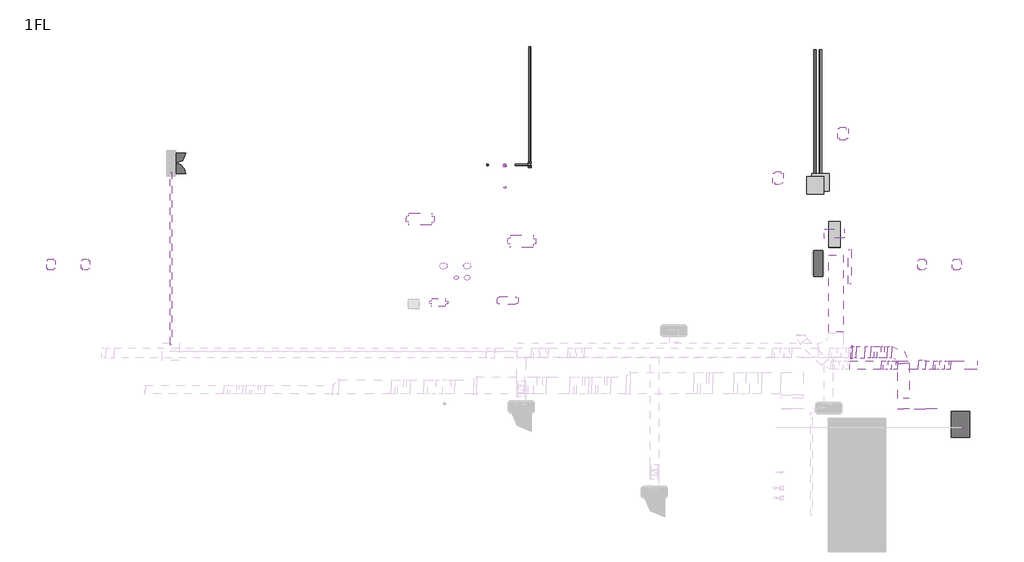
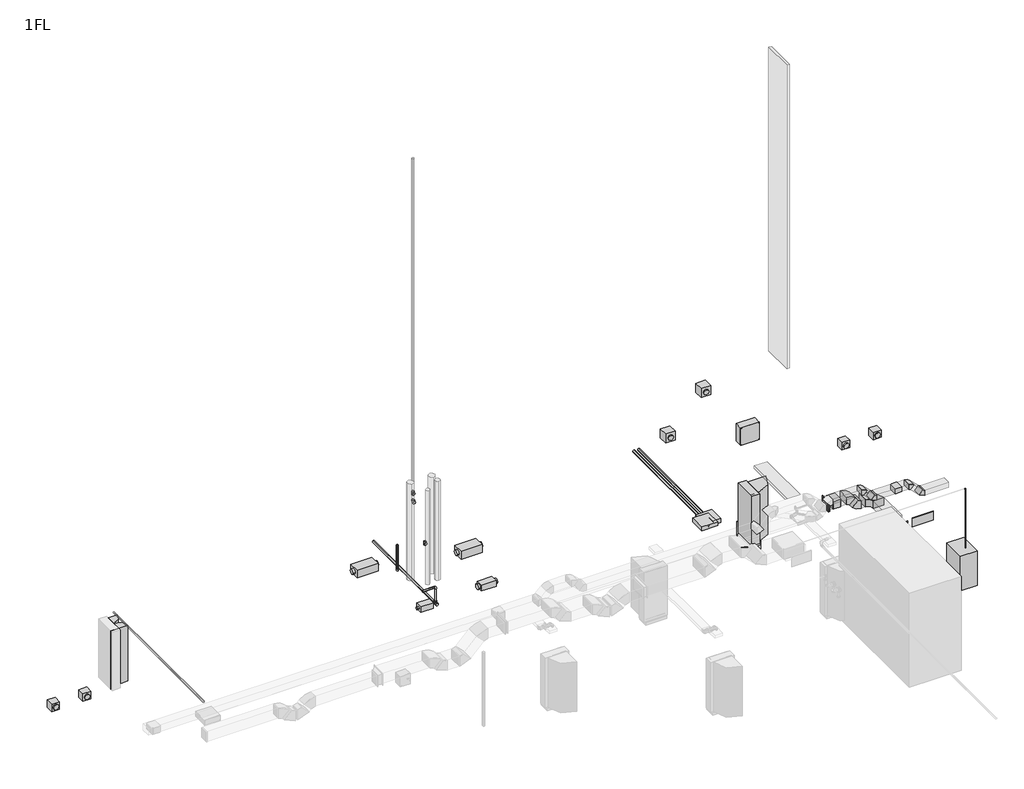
# One storey, part 3 of 3: 15 duct segments, 12 duct fittings, 10 unitary equipment elements, 8 pipe fittings, 7 pipe segments, 5 cable carrier segments, 3 electric distribution boards, 2 cable carrier fittings, 2 proxies.
"""IFC4 building model written with IfcOpenShell, lengths in millimetres."""

from ifc_helpers import new_model, si_unit, point, frame, frame_2d, origin, origin_with_axes, place, context, project, spatial, polyline, circle_curve, trimmed, segment, composite_curve, outline, extrude, transform, mapped, element, save
from components import electrical_fixtures_9befc5e6, electrical_fixtures_c73e226d, cable_carrier_fitting_1a5c53af, common_c334632e, common_e3022bb7, common_0bd60039, common_c3ac9124, common_1_0_w_3d36b4d6, common_1_0_w_5a3e512d, common_1_0_w_81b0d351, common_45_deg_c842ccf0, electric_distribution_board_7f65f68d, electric_distribution_board_1ec212f5, electric_distribution_board_7d68dc5e, common_279bc6e8, common_9c93153a, common_bebf707b, common_e0ad3d5b, common_d1d28a45, common_b14b07df, common_2263acef, unitary_equipment_1_1_4_650m3_h_05f98e83, unitary_equipment_1_150m3_h_757a065e, unitary_equipment_1_300m3_h_c85a9461, unitary_equipment_2_1_2_650m3_h_d17ee650, unitary_equipment_2_300m3_h_3dfff21d

model = new_model("IFC4")

# Units and contexts
model_context = context("Model", 3, world=origin())
ifc_project = project(units=[si_unit("LENGTHUNIT", "METRE", prefix="MILLI")], contexts=[model_context])

# Site, building, storey
site = spatial("IfcSite", under=ifc_project)
building = spatial("IfcBuilding", under=site)
storey = spatial("IfcBuildingStorey", under=building, Name="1FL", Elevation=0.0)

# Proxies
placement = place(None, origin())
electrical_fixtures_shape = electrical_fixtures_9befc5e6(model_context)
element("IfcBuildingElementProxy", 1, Name="20206_プルボックス_大_強電用 : 幹線設備", ObjectType="20206_プルボックス_大_強電用 : 幹線設備", at=placement, inside=storey, context=model_context, shape_type="MappedRepresentation", body=[
    mapped(electrical_fixtures_shape, transform((27454.755715, 19270.1146486, 3230.0), x_axis=(1.0, 0.0, 0.0), y_axis=(0.0, 1.0, 0.0), z_axis=(0.0, 0.0, 1.0))),
])
electrical_fixtures_2_shape = electrical_fixtures_c73e226d(model_context)
element("IfcBuildingElementProxy", 2, Name="20206_プルボックス_大_強電用 : 幹線設備", ObjectType="20206_プルボックス_大_強電用 : 幹線設備", at=placement, inside=storey, context=model_context, shape_type="MappedRepresentation", body=[
    mapped(electrical_fixtures_2_shape, transform((27469.51143, 19230.5997435, -1139.6522749), x_axis=(1.0, 0.0, 0.0), y_axis=(0.0, 1.0, 0.0), z_axis=(0.0, 0.0, 1.0))),
])

# Cable carrier fittings
cable_carrier_fitting_shape = cable_carrier_fitting_1a5c53af(model_context)
element("IfcCableCarrierFitting", 3, ObjectType="M_電線管端子箱 - 置換 - アルミニウム : 標準", at=placement, inside=storey, context=model_context, shape_type="MappedRepresentation", body=[
    mapped(cable_carrier_fitting_shape, transform((26794.6857911, 20644.3078062, -850.0), x_axis=(0.0, 1.0, 0.0), y_axis=(-1.0, 0.0, 0.0), z_axis=(0.0, 0.0, 1.0))),
])
element("IfcCableCarrierFitting", 4, ObjectType="M_電線管端子箱 - 置換 - アルミニウム : 標準", at=placement, inside=storey, context=model_context, shape_type="MappedRepresentation", body=[
    mapped(cable_carrier_fitting_shape, transform((26974.6857911, 20752.1539031, -850.0), x_axis=(0.0, 1.0, 0.0), y_axis=(-1.0, 0.0, 0.0), z_axis=(0.0, 0.0, 1.0))),
])

# Cable carrier segments
element("IfcCableCarrierSegment", 5, ObjectType="03 強電_低圧", at=placement, inside=storey, context=model_context, shape_type="SweptSolid", body=[
    extrude(outline(polyline([(27945.0, 17511.820725), (27945.0, 18711.820725), (28045.0, 18711.820725), (28045.0, 17511.820725), (27945.0, 17511.820725)])), frame((0.0, 0.0, 7000.0), z_axis=(0.0, 0.0, 1.0), x_axis=(1.0, 0.0, 0.0)), (0.0, 0.0, 1.0), 12280.0),
])
element("IfcCableCarrierSegment", 6, ObjectType="03 強電_低圧", at=placement, inside=storey, context=model_context, shape_type="SweptSolid", body=[
    extrude(outline(polyline([(27769.8202836, 15850.0), (27269.8202836, 15850.0), (27269.8202836, 18530.0), (27769.8202836, 18530.0), (27769.8202836, 15850.0)])), frame((0.0, 0.0, 2600.0), z_axis=(0.0, 0.0, 1.0), x_axis=(1.0, 0.0, 0.0)), (0.0, 0.0, 1.0), 100.0),
])
element("IfcCableCarrierSegment", 7, ObjectType="011_厚鋼電線管_G_強電", at=placement, inside=storey, context=model_context, shape_type="SweptSolid", body=[
    extrude(outline(composite_curve([segment(trimmed(circle_curve(frame_2d((-850.0, 26794.6857911)), 43.95), [point((-850.0, 26838.6357911))], [point((-806.05, 26794.6857911))], False, "CARTESIAN"), True, "CONTINUOUS"), segment(trimmed(circle_curve(frame_2d((-850.0, 26794.6857911)), 43.95), [point((-806.05, 26794.6857911))], [point((-850.0, 26750.7357911))], False, "CARTESIAN"), True, "CONTINUOUS"), segment(trimmed(circle_curve(frame_2d((-850.0, 26794.6857911)), 43.95), [point((-850.0, 26750.7357911))], [point((-893.95, 26794.6857911))], False, "CARTESIAN"), True, "CONTINUOUS"), segment(trimmed(circle_curve(frame_2d((-850.0, 26794.6857911)), 43.95), [point((-893.95, 26794.6857911))], [point((-850.0, 26838.6357911))], False, "CARTESIAN"), True, "CONTINUOUS")], self_intersect=False)), frame((0.0, 20658.4414247, 0.0), z_axis=(0.0, 1.0, 0.0), x_axis=(0.0, 0.0, 1.0)), (0.0, 0.0, 1.0), 4995.0),
])
element("IfcCableCarrierSegment", 8, ObjectType="011_厚鋼電線管_G_強電", at=placement, inside=storey, context=model_context, shape_type="SweptSolid", body=[
    extrude(outline(composite_curve([segment(trimmed(circle_curve(frame_2d((-850.0, 26974.6857911)), 43.95), [point((-850.0, 27018.6357911))], [point((-806.05, 26974.6857911))], False, "CARTESIAN"), True, "CONTINUOUS"), segment(trimmed(circle_curve(frame_2d((-850.0, 26974.6857911)), 43.95), [point((-806.05, 26974.6857911))], [point((-850.0, 26930.7357911))], False, "CARTESIAN"), True, "CONTINUOUS"), segment(trimmed(circle_curve(frame_2d((-850.0, 26974.6857911)), 43.95), [point((-850.0, 26930.7357911))], [point((-893.95, 26974.6857911))], False, "CARTESIAN"), True, "CONTINUOUS"), segment(trimmed(circle_curve(frame_2d((-850.0, 26974.6857911)), 43.95), [point((-893.95, 26974.6857911))], [point((-850.0, 27018.6357911))], False, "CARTESIAN"), True, "CONTINUOUS")], self_intersect=False)), frame((0.0, 20768.4414247, 0.0), z_axis=(0.0, 1.0, 0.0), x_axis=(0.0, 0.0, 1.0)), (0.0, 0.0, 1.0), 4885.0),
])
element("IfcCableCarrierSegment", 9, ObjectType="021_ねじなし電線管_E_強電", at=placement, inside=storey, context=model_context, shape_type="SweptSolid", body=[
    extrude(outline(composite_curve([segment(trimmed(circle_curve(frame_2d((3020.0, 4462.2728341)), 25.4), [point((3020.0, 4436.8728341))], [point((2994.6, 4462.2728341))], False, "CARTESIAN"), True, "CONTINUOUS"), segment(trimmed(circle_curve(frame_2d((3020.0, 4462.2728341)), 25.4), [point((2994.6, 4462.2728341))], [point((3020.0, 4487.6728341))], False, "CARTESIAN"), True, "CONTINUOUS"), segment(trimmed(circle_curve(frame_2d((3020.0, 4462.2728341)), 25.4), [point((3020.0, 4487.6728341))], [point((3045.4, 4462.2728341))], False, "CARTESIAN"), True, "CONTINUOUS"), segment(trimmed(circle_curve(frame_2d((3020.0, 4462.2728341)), 25.4), [point((3045.4, 4462.2728341))], [point((3020.0, 4436.8728341))], False, "CARTESIAN"), True, "CONTINUOUS")], self_intersect=False)), frame((0.0, 15430.0, 0.0), z_axis=(0.0, 1.0, 0.0), x_axis=(0.0, 0.0, 1.0)), (0.0, 0.0, 1.0), 5980.0),
])

# Duct fittings
common_shape = common_c334632e(model_context)
element("IfcDuctFitting", 10, ObjectType="071_角型ユニオン : Common", at=placement, inside=storey, context=model_context, shape_type="MappedRepresentation", body=[
    mapped(common_shape, transform((29850.0, 13188.0, 2600.0), x_axis=(0.0, -1.0, 0.0), y_axis=(1.0, 0.0, 0.0), z_axis=(0.0, 0.0, 1.0))),
])
common_2_shape = common_e3022bb7(model_context)
element("IfcDuctFitting", 11, ObjectType="071_角型ユニオン : Common", at=placement, inside=storey, context=model_context, shape_type="MappedRepresentation", body=[
    mapped(common_2_shape, transform((30631.6872722, 13182.0, 2625.0), x_axis=(0.0, 1.0, 0.0), y_axis=(-1.0, 0.0, 0.0), z_axis=(0.0, 0.0, 1.0))),
])
common_3_shape = common_0bd60039(model_context)
element("IfcDuctFitting", 12, ObjectType="022_角形片側分岐 : Common", at=placement, inside=storey, context=model_context, shape_type="MappedRepresentation", body=[
    mapped(common_3_shape, transform((28365.0336051, 15155.0, 2950.0), x_axis=(1.0, 0.0, 0.0), y_axis=(0.0, 1.0, 0.0), z_axis=(0.0, 0.0, 1.0))),
])
common_4_shape = common_c3ac9124(model_context)
element("IfcDuctFitting", 13, ObjectType="022_角形片側分岐 : Common", at=placement, inside=storey, context=model_context, shape_type="MappedRepresentation", body=[
    mapped(common_4_shape, transform((30500.0, 14705.0, 3000.0), x_axis=(-1.0, 0.0, 0.0), y_axis=(0.0, -1.0, 0.0), z_axis=(0.0, 0.0, 1.0))),
])
common_1_0_w_shape = common_1_0_w_3d36b4d6(model_context)
element("IfcDuctFitting", 14, ObjectType="011_角型エルボ - 半径 : Common 1.0 W", at=placement, inside=storey, context=model_context, shape_type="MappedRepresentation", body=[
    mapped(common_1_0_w_shape, transform((29850.0, 15155.0, 2600.0), x_axis=(0.0, 1.0, 0.0), y_axis=(-1.0, 0.0, 0.0), z_axis=(0.0, 0.0, 1.0))),
])
common_1_0_w_2_shape = common_1_0_w_5a3e512d(model_context)
element("IfcDuctFitting", 15, ObjectType="011_角型エルボ - 半径 : Common 1.0 W", at=placement, inside=storey, context=model_context, shape_type="MappedRepresentation", body=[
    mapped(common_1_0_w_2_shape, transform((30965.0, 14705.0, 3000.0), x_axis=(1.0, 0.0, 0.0), y_axis=(0.0, 0.0, -1.0), z_axis=(0.0, 1.0, 0.0))),
])
element("IfcDuctFitting", 16, ObjectType="011_角型エルボ - 半径 : Common 1.0 W", at=placement, inside=storey, context=model_context, shape_type="MappedRepresentation", body=[
    mapped(common_1_0_w_2_shape, transform((31415.0, 14705.0, 2550.0), x_axis=(0.7071067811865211, 0.0, -0.707106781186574), y_axis=(0.707106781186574, 0.0, 0.7071067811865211), z_axis=(0.0, -1.0, 0.0))),
])
element("IfcDuctFitting", 17, ObjectType="011_角型エルボ - 半径 : Common 1.0 W", at=placement, inside=storey, context=model_context, shape_type="MappedRepresentation", body=[
    mapped(common_1_0_w_2_shape, transform((29575.0, 14705.0, 3000.0), x_axis=(-1.0, 0.0, 0.0), y_axis=(0.0, 0.0, 1.0), z_axis=(0.0, 1.0, 0.0))),
])
element("IfcDuctFitting", 18, ObjectType="011_角型エルボ - 半径 : Common 1.0 W", at=placement, inside=storey, context=model_context, shape_type="MappedRepresentation", body=[
    mapped(common_1_0_w_2_shape, transform((29175.0, 14705.0, 3400.0), x_axis=(-0.7071067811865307, 0.0, 0.7071067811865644), y_axis=(-0.7071067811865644, 0.0, -0.7071067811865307), z_axis=(0.0, -1.0, 0.0))),
])
common_1_0_w_3_shape = common_1_0_w_81b0d351(model_context)
element("IfcDuctFitting", 19, ObjectType="011_角型エルボ - 半径 : Common 1.0 W", at=placement, inside=storey, context=model_context, shape_type="MappedRepresentation", body=[
    mapped(common_1_0_w_3_shape, transform((29157.8322542, 15155.0, 2600.0), x_axis=(-1.0, 0.0, 0.0), y_axis=(0.0, 0.0, 1.0), z_axis=(0.0, 1.0, 0.0))),
])
element("IfcDuctFitting", 20, ObjectType="011_角型エルボ - 半径 : Common 1.0 W", at=placement, inside=storey, context=model_context, shape_type="MappedRepresentation", body=[
    mapped(common_1_0_w_3_shape, transform((28864.1473833, 15155.0, 2950.0), x_axis=(-0.6427876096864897, 0.0, 0.7660444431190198), y_axis=(-0.7660444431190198, 0.0, -0.6427876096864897), z_axis=(0.0, -1.0, 0.0))),
])
common_45_deg_shape = common_45_deg_c842ccf0(model_context)
element("IfcDuctFitting", 21, ObjectType="041_角型置換 - フランジ - 角度 : Common 45 deg", at=placement, inside=storey, context=model_context, shape_type="MappedRepresentation", body=[
    mapped(common_45_deg_shape, transform((28079.8202836, 15155.0, 2950.0), x_axis=(-1.0, 0.0, 0.0), y_axis=(0.0, -1.0, 0.0), z_axis=(0.0, 0.0, 1.0))),
])

# Duct segments
element("IfcDuctSegment", 22, ObjectType="00_丸タップ", at=placement, inside=storey, context=model_context, shape_type="SweptSolid", body=[
    extrude(outline(composite_curve([segment(trimmed(circle_curve(frame_2d((14350.0, 17739.8209808)), 75.0), [point((14350.0, 17814.8209808))], [point((14425.0, 17739.8209808))], False, "CARTESIAN"), True, "CONTINUOUS"), segment(trimmed(circle_curve(frame_2d((14350.0, 17739.8209808)), 75.0), [point((14425.0, 17739.8209808))], [point((14350.0, 17664.8209808))], False, "CARTESIAN"), True, "CONTINUOUS"), segment(trimmed(circle_curve(frame_2d((14350.0, 17739.8209808)), 75.0), [point((14350.0, 17664.8209808))], [point((14275.0, 17739.8209808))], False, "CARTESIAN"), True, "CONTINUOUS"), segment(trimmed(circle_curve(frame_2d((14350.0, 17739.8209808)), 75.0), [point((14275.0, 17739.8209808))], [point((14350.0, 17814.8209808))], False, "CARTESIAN"), True, "CONTINUOUS")], self_intersect=False)), frame((0.0, 0.0, 2950.0), z_axis=(0.0, 0.0, 1.0), x_axis=(1.0, 0.0, 0.0)), (0.0, 0.0, 1.0), 3800.0),
])
element("IfcDuctSegment", 23, ObjectType="00_丸ティー", at=placement, inside=storey, context=model_context, shape_type="SweptSolid", body=[
    extrude(outline(composite_curve([segment(trimmed(circle_curve(frame_2d((14728.5904324, 17739.8209808)), 100.0), [point((14728.5904324, 17839.8209808))], [point((14828.5904324, 17739.8209808))], False, "CARTESIAN"), True, "CONTINUOUS"), segment(trimmed(circle_curve(frame_2d((14728.5904324, 17739.8209808)), 100.0), [point((14828.5904324, 17739.8209808))], [point((14728.5904324, 17639.8209808))], False, "CARTESIAN"), True, "CONTINUOUS"), segment(trimmed(circle_curve(frame_2d((14728.5904324, 17739.8209808)), 100.0), [point((14728.5904324, 17639.8209808))], [point((14628.5904324, 17739.8209808))], False, "CARTESIAN"), True, "CONTINUOUS"), segment(trimmed(circle_curve(frame_2d((14728.5904324, 17739.8209808)), 100.0), [point((14628.5904324, 17739.8209808))], [point((14728.5904324, 17839.8209808))], False, "CARTESIAN"), True, "CONTINUOUS")], self_intersect=False)), frame((0.0, 0.0, 3000.0), z_axis=(0.0, 0.0, 1.0), x_axis=(1.0, 0.0, 0.0)), (0.0, 0.0, 1.0), 4000.0),
])
element("IfcDuctSegment", 24, ObjectType="00_丸タップ", at=placement, inside=storey, context=model_context, shape_type="SweptSolid", body=[
    extrude(outline(composite_curve([segment(trimmed(circle_curve(frame_2d((14728.5904324, 18143.5670365)), 125.0), [point((14603.5904324, 18143.5670365))], [point((14728.5904324, 18268.5670365))], False, "CARTESIAN"), True, "CONTINUOUS"), segment(trimmed(circle_curve(frame_2d((14728.5904324, 18143.5670365)), 125.0), [point((14728.5904324, 18268.5670365))], [point((14853.5904324, 18143.5670365))], False, "CARTESIAN"), True, "CONTINUOUS"), segment(trimmed(circle_curve(frame_2d((14728.5904324, 18143.5670365)), 125.0), [point((14853.5904324, 18143.5670365))], [point((14728.5904324, 18018.5670365))], False, "CARTESIAN"), True, "CONTINUOUS"), segment(trimmed(circle_curve(frame_2d((14728.5904324, 18143.5670365)), 125.0), [point((14728.5904324, 18018.5670365))], [point((14603.5904324, 18143.5670365))], False, "CARTESIAN"), True, "CONTINUOUS")], self_intersect=False)), frame((0.0, 0.0, 3050.0), z_axis=(0.0, 0.0, 1.0), x_axis=(1.0, 0.0, 0.0)), (0.0, 0.0, 1.0), 3900.0),
])
element("IfcDuctSegment", 25, ObjectType="00_丸ティー", at=placement, inside=storey, context=model_context, shape_type="SweptSolid", body=[
    extrude(outline(composite_curve([segment(trimmed(circle_curve(frame_2d((13910.0, 18140.2974992)), 125.0), [point((13785.0, 18140.2974992))], [point((13910.0, 18265.2974992))], False, "CARTESIAN"), True, "CONTINUOUS"), segment(trimmed(circle_curve(frame_2d((13910.0, 18140.2974992)), 125.0), [point((13910.0, 18265.2974992))], [point((14035.0, 18140.2974992))], False, "CARTESIAN"), True, "CONTINUOUS"), segment(trimmed(circle_curve(frame_2d((13910.0, 18140.2974992)), 125.0), [point((14035.0, 18140.2974992))], [point((13910.0, 18015.2974992))], False, "CARTESIAN"), True, "CONTINUOUS"), segment(trimmed(circle_curve(frame_2d((13910.0, 18140.2974992)), 125.0), [point((13910.0, 18015.2974992))], [point((13785.0, 18140.2974992))], False, "CARTESIAN"), True, "CONTINUOUS")], self_intersect=False)), frame((0.0, 0.0, 3050.0), z_axis=(0.0, 0.0, 1.0), x_axis=(1.0, 0.0, 0.0)), (0.0, 0.0, 1.0), 3900.0),
])
element("IfcDuctSegment", 26, ObjectType="00_角ティー", at=placement, inside=storey, context=model_context, shape_type="SweptSolid", body=[
    extrude(outline(polyline([(28215.0336051, 15355.0), (28215.0336051, 14955.0), (28079.8202836, 14955.0), (28079.8202836, 15355.0), (28215.0336051, 15355.0)])), frame((0.0, 0.0, 2800.0), z_axis=(0.0, 0.0, 1.0), x_axis=(1.0, 0.0, 0.0)), (0.0, 0.0, 1.0), 300.0),
])
element("IfcDuctSegment", 27, ObjectType="00_角ティー", at=placement, inside=storey, context=model_context, shape_type="SweptSolid", body=[
    extrude(outline(polyline([(28724.2550858, 15355.0), (28724.2550858, 14955.0), (28515.0336051, 14955.0), (28515.0336051, 15355.0), (28724.2550858, 15355.0)])), frame((0.0, 0.0, 2800.0), z_axis=(0.0, 0.0, 1.0), x_axis=(1.0, 0.0, 0.0)), (0.0, 0.0, 1.0), 300.0),
])
element("IfcDuctSegment", 28, ObjectType="00_角タップ", at=placement, inside=storey, context=model_context, shape_type="SweptSolid", body=[
    extrude(outline(polyline([(30050.0, 13545.5), (29650.0, 13545.5), (29650.0, 14755.0), (30050.0, 14755.0), (30050.0, 13545.5)])), frame((0.0, 0.0, 2450.0), z_axis=(0.0, 0.0, 1.0), x_axis=(1.0, 0.0, 0.0)), (0.0, 0.0, 1.0), 300.0),
])
element("IfcDuctSegment", 29, ObjectType="00_角タップ", at=placement, inside=storey, context=model_context, shape_type="SweptSolid", body=[
    extrude(outline(polyline([(29450.0, 15355.0), (29450.0, 14955.0), (29297.7245517, 14955.0), (29297.7245517, 15355.0), (29450.0, 15355.0)])), frame((0.0, 0.0, 2450.0), z_axis=(0.0, 0.0, 1.0), x_axis=(1.0, 0.0, 0.0)), (0.0, 0.0, 1.0), 300.0),
])
element("IfcDuctSegment", 30, ObjectType="00_角タップ", at=placement, inside=storey, context=model_context, shape_type="SweptSolid", body=[
    extrude(outline(polyline([(-150.0, 50.0), (-150.0, 450.0), (150.0, 450.0), (150.0, 50.0), (-150.0, 50.0)])), frame((29067.9112187, 14905.0, 2707.1637171), z_axis=(-0.6427876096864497, 0.0, 0.7660444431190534), x_axis=(0.7660444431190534, 0.0, 0.6427876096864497)), (0.0, 0.0, 1.0), 177.1079564),
])
element("IfcDuctSegment", 31, ObjectType="00_角ティー", at=placement, inside=storey, context=model_context, shape_type="SweptSolid", body=[
    extrude(outline(polyline([(30625.0, 14555.0), (30625.0, 14855.0), (30882.1572875, 14855.0), (30882.1572875, 14555.0), (30625.0, 14555.0)])), frame((0.0, 0.0, 2900.0), z_axis=(0.0, 0.0, 1.0), x_axis=(1.0, 0.0, 0.0)), (0.0, 0.0, 1.0), 200.0),
])
element("IfcDuctSegment", 32, ObjectType="00_角タップ", at=placement, inside=storey, context=model_context, shape_type="SweptSolid", body=[
    extrude(outline(polyline([(30375.0, 14855.0), (30375.0, 14555.0), (29657.8427125, 14555.0), (29657.8427125, 14855.0), (30375.0, 14855.0)])), frame((0.0, 0.0, 2900.0), z_axis=(0.0, 0.0, 1.0), x_axis=(1.0, 0.0, 0.0)), (0.0, 0.0, 1.0), 200.0),
])
element("IfcDuctSegment", 33, ObjectType="00_角ティー", at=placement, inside=storey, context=model_context, shape_type="SweptSolid", body=[
    extrude(outline(polyline([(0.0, -300.0), (0.0, 0.0), (470.7106782, 0.0), (470.7106782, -300.0), (0.0, -300.0)])), frame((30952.8679656, 14855.0, 2870.7106781), z_axis=(0.7071067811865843, 0.0, 0.7071067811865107), x_axis=(0.7071067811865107, 0.0, -0.7071067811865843)), (0.0, 0.0, 1.0), 200.0),
])
element("IfcDuctSegment", 34, ObjectType="00_角ティー", at=placement, inside=storey, context=model_context, shape_type="SweptSolid", body=[
    extrude(outline(polyline([(31497.8427125, 14555.0), (31497.8427125, 14855.0), (32420.0, 14855.0), (32420.0, 14555.0), (31497.8427125, 14555.0)])), frame((0.0, 0.0, 2450.0), z_axis=(0.0, 0.0, 1.0), x_axis=(1.0, 0.0, 0.0)), (0.0, 0.0, 1.0), 200.0),
])
element("IfcDuctSegment", 35, ObjectType="00_角タップ", at=placement, inside=storey, context=model_context, shape_type="SweptSolid", body=[
    extrude(outline(polyline([(0.0, -300.0), (0.0, 0.0), (400.0, 0.0), (400.0, -300.0), (0.0, -300.0)])), frame((29445.7106781, 14555.0, 2987.8679656), z_axis=(0.7071067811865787, 0.0, 0.7071067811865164), x_axis=(-0.7071067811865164, 0.0, 0.7071067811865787)), (0.0, 0.0, 1.0), 200.0),
])
element("IfcDuctSegment", 36, ObjectType="00_角ティー", at=placement, inside=storey, context=model_context, shape_type="SweptSolid", body=[
    extrude(outline(polyline([(29092.1572875, 14855.0), (29092.1572875, 14555.0), (27987.6433336, 14555.0), (27987.6433336, 14855.0), (29092.1572875, 14855.0)])), frame((0.0, 0.0, 3300.0), z_axis=(0.0, 0.0, 1.0), x_axis=(1.0, 0.0, 0.0)), (0.0, 0.0, 1.0), 200.0),
])

# Electric distribution boards
electric_distribution_board_shape = electric_distribution_board_7f65f68d(model_context)
element("IfcElectricDistributionBoard", 37, ObjectType="51100_給油口ボックス : ポンプ内蔵", at=placement, inside=storey, context=model_context, shape_type="MappedRepresentation", body=[
    mapped(electric_distribution_board_shape, transform((31505.6479892, 12655.0, 0.0), x_axis=(0.0, 1.0, 0.0), y_axis=(-1.0, 0.0, 0.0), z_axis=(0.0, 0.0, 1.0))),
])
electric_distribution_board_2_shape = electric_distribution_board_1ec212f5(model_context)
element("IfcElectricDistributionBoard", 38, ObjectType="43300_機械設備盤 : EV制御盤", at=placement, inside=storey, context=model_context, shape_type="MappedRepresentation", body=[
    mapped(electric_distribution_board_2_shape, transform((4275.0, 21705.7994846, 0.0), x_axis=(0.0, 1.0, 0.0), y_axis=(-1.0, 0.0, 0.0), z_axis=(0.0, 0.0, 1.0))),
])
electric_distribution_board_3_shape = electric_distribution_board_7d68dc5e(model_context)
element("IfcElectricDistributionBoard", 39, ObjectType="20800_分電盤 : 右扉", at=placement, inside=storey, context=model_context, shape_type="MappedRepresentation", body=[
    mapped(electric_distribution_board_3_shape, transform((26700.0, 18231.8647061, 0.0), x_axis=(0.0, 1.0, 0.0), y_axis=(-1.0, 0.0, 0.0), z_axis=(0.0, 0.0, 1.0))),
])

# Pipe fittings
common_5_shape = common_279bc6e8(model_context)
element("IfcPipeFitting", 40, ObjectType="011_エルボ : Common", at=placement, inside=storey, context=model_context, shape_type="MappedRepresentation", body=[
    mapped(common_5_shape, transform((16040.0, 21650.0, 3300.0), x_axis=(0.0, 1.0, 0.0), y_axis=(0.0, 0.0, 1.0), z_axis=(1.0, 0.0, 0.0))),
])
common_6_shape = common_9c93153a(model_context)
element("IfcPipeFitting", 41, ObjectType="011_エルボ : Common", at=placement, inside=storey, context=model_context, shape_type="MappedRepresentation", body=[
    mapped(common_6_shape, transform((16900.0, 21650.0, -450.0), x_axis=(0.0, 0.0, 1.0), y_axis=(-1.0, 0.0, 0.0), z_axis=(0.0, -1.0, 0.0))),
])
common_7_shape = common_bebf707b(model_context)
element("IfcPipeFitting", 42, ObjectType="011_エルボ : Common", at=placement, inside=storey, context=model_context, shape_type="MappedRepresentation", body=[
    mapped(common_7_shape, transform((31894.6903852, 12540.4881997, 3800.0), x_axis=(1.0, 0.0, 0.0), y_axis=(0.0, 0.0, -1.0), z_axis=(0.0, 1.0, 0.0))),
])
common_8_shape = common_e0ad3d5b(model_context)
element("IfcPipeFitting", 43, ObjectType="021_径違い90° 大曲がり Y : Common", at=placement, inside=storey, context=model_context, shape_type="MappedRepresentation", body=[
    mapped(common_8_shape, transform((16900.0, 21650.0, -1100.0), x_axis=(0.0, -1.0, 0.0), y_axis=(0.0, 0.0, -1.0), z_axis=(1.0, 0.0, 0.0))),
])
common_9_shape = common_d1d28a45(model_context)
element("IfcPipeFitting", 44, ObjectType="021_径違いＴ型 : Common", at=placement, inside=storey, context=model_context, shape_type="MappedRepresentation", body=[
    mapped(common_9_shape, transform((16040.0, 20870.0, 2100.0), x_axis=(0.0, 0.0, 1.0), y_axis=(0.0, 1.0, 0.0), z_axis=(-1.0, 0.0, 0.0))),
])
element("IfcPipeFitting", 45, ObjectType="021_径違いＴ型 : Common", at=placement, inside=storey, context=model_context, shape_type="MappedRepresentation", body=[
    mapped(common_9_shape, transform((16040.0, 21650.0, 3650.0), x_axis=(0.0, 0.0, 1.0), y_axis=(0.0, 1.0, 0.0), z_axis=(-1.0, 0.0, 0.0))),
])
common_10_shape = common_b14b07df(model_context)
element("IfcPipeFitting", 46, ObjectType="071_掃除口 : Common", at=placement, inside=storey, context=model_context, shape_type="MappedRepresentation", body=[
    mapped(common_10_shape, transform((16900.0, 21588.0, -1100.0), x_axis=(0.0, -1.0, 0.0), y_axis=(0.0, 0.0, -1.0), z_axis=(1.0, 0.0, 0.0))),
])
common_11_shape = common_2263acef(model_context)
element("IfcPipeFitting", 47, ObjectType="071_キャップ : Common", at=placement, inside=storey, context=model_context, shape_type="MappedRepresentation", body=[
    mapped(common_11_shape, transform((15440.0, 21650.0, 800.0), x_axis=(0.0, 0.0, -1.0), y_axis=(-1.0, 0.0, 0.0), z_axis=(0.0, 1.0, 0.0))),
])

# Pipe segments
element("IfcPipeSegment", 48, ObjectType="00_供給", at=placement, inside=storey, context=model_context, shape_type="SweptSolid", body=[
    extrude(outline(composite_curve([segment(trimmed(circle_curve(frame_2d((31894.6903852, 12540.4881997)), 10.85), [point((31883.8403852, 12540.4881997))], [point((31894.6903852, 12551.3381997))], False, "CARTESIAN"), True, "CONTINUOUS"), segment(trimmed(circle_curve(frame_2d((31894.6903852, 12540.4881997)), 10.85), [point((31894.6903852, 12551.3381997))], [point((31905.5403852, 12540.4881997))], False, "CARTESIAN"), True, "CONTINUOUS"), segment(trimmed(circle_curve(frame_2d((31894.6903852, 12540.4881997)), 10.85), [point((31905.5403852, 12540.4881997))], [point((31894.6903852, 12529.6381997))], False, "CARTESIAN"), True, "CONTINUOUS"), segment(trimmed(circle_curve(frame_2d((31894.6903852, 12540.4881997)), 10.85), [point((31894.6903852, 12529.6381997))], [point((31883.8403852, 12540.4881997))], False, "CARTESIAN"), True, "CONTINUOUS")], self_intersect=False)), origin_with_axes(), (0.0, 0.0, 1.0), 3773.0),
])
element("IfcPipeSegment", 49, ObjectType="00_排水", at=placement, inside=storey, context=model_context, shape_type="SweptSolid", body=[
    extrude(outline(composite_curve([segment(trimmed(circle_curve(frame_2d((21650.0, -450.0)), 30.25), [point((21680.25, -450.0))], [point((21650.0, -480.25))], False, "CARTESIAN"), True, "CONTINUOUS"), segment(trimmed(circle_curve(frame_2d((21650.0, -450.0)), 30.25), [point((21650.0, -480.25))], [point((21619.75, -450.0))], False, "CARTESIAN"), True, "CONTINUOUS"), segment(trimmed(circle_curve(frame_2d((21650.0, -450.0)), 30.25), [point((21619.75, -450.0))], [point((21650.0, -419.75))], False, "CARTESIAN"), True, "CONTINUOUS"), segment(trimmed(circle_curve(frame_2d((21650.0, -450.0)), 30.25), [point((21650.0, -419.75))], [point((21680.25, -450.0))], False, "CARTESIAN"), True, "CONTINUOUS")], self_intersect=False)), frame((16398.0, 0.0, 0.0), z_axis=(1.0, 0.0, 0.0), x_axis=(0.0, 1.0, 0.0)), (0.0, 0.0, 1.0), 444.0),
])
element("IfcPipeSegment", 50, ObjectType="00_排水", at=placement, inside=storey, context=model_context, shape_type="SweptSolid", body=[
    extrude(outline(composite_curve([segment(trimmed(circle_curve(frame_2d((16900.0, 21650.0)), 30.25), [point((16869.75, 21650.0))], [point((16900.0, 21680.25))], False, "CARTESIAN"), True, "CONTINUOUS"), segment(trimmed(circle_curve(frame_2d((16900.0, 21650.0)), 30.25), [point((16900.0, 21680.25))], [point((16930.25, 21650.0))], False, "CARTESIAN"), True, "CONTINUOUS"), segment(trimmed(circle_curve(frame_2d((16900.0, 21650.0)), 30.25), [point((16930.25, 21650.0))], [point((16900.0, 21619.75))], False, "CARTESIAN"), True, "CONTINUOUS"), segment(trimmed(circle_curve(frame_2d((16900.0, 21650.0)), 30.25), [point((16900.0, 21619.75))], [point((16869.75, 21650.0))], False, "CARTESIAN"), True, "CONTINUOUS")], self_intersect=False)), frame((0.0, 0.0, -1001.0), z_axis=(0.0, 0.0, 1.0), x_axis=(1.0, 0.0, 0.0)), (0.0, 0.0, 1.0), 493.0),
])
element("IfcPipeSegment", 51, ObjectType="00_排水", at=placement, inside=storey, context=model_context, shape_type="SweptSolid", body=[
    extrude(outline(composite_curve([segment(trimmed(circle_curve(frame_2d((-1100.0, 16900.0)), 38.15), [point((-1100.0, 16861.85))], [point((-1138.15, 16900.0))], False, "CARTESIAN"), True, "CONTINUOUS"), segment(trimmed(circle_curve(frame_2d((-1100.0, 16900.0)), 38.15), [point((-1138.15, 16900.0))], [point((-1100.0, 16938.15))], False, "CARTESIAN"), True, "CONTINUOUS"), segment(trimmed(circle_curve(frame_2d((-1100.0, 16900.0)), 38.15), [point((-1100.0, 16938.15))], [point((-1061.85, 16900.0))], False, "CARTESIAN"), True, "CONTINUOUS"), segment(trimmed(circle_curve(frame_2d((-1100.0, 16900.0)), 38.15), [point((-1061.85, 16900.0))], [point((-1100.0, 16861.85))], False, "CARTESIAN"), True, "CONTINUOUS")], self_intersect=False)), frame((0.0, 21751.0, 0.0), z_axis=(0.0, 1.0, 0.0), x_axis=(0.0, 0.0, 1.0)), (0.0, 0.0, 1.0), 4009.0),
])
element("IfcPipeSegment", 52, ObjectType="00_供給", at=placement, inside=storey, context=model_context, shape_type="SweptSolid", body=[
    extrude(outline(composite_curve([segment(trimmed(circle_curve(frame_2d((15440.0, 21650.0)), 30.25), [point((15470.25, 21650.0))], [point((15440.0, 21619.75))], False, "CARTESIAN"), True, "CONTINUOUS"), segment(trimmed(circle_curve(frame_2d((15440.0, 21650.0)), 30.25), [point((15440.0, 21619.75))], [point((15409.75, 21650.0))], False, "CARTESIAN"), True, "CONTINUOUS"), segment(trimmed(circle_curve(frame_2d((15440.0, 21650.0)), 30.25), [point((15409.75, 21650.0))], [point((15440.0, 21680.25))], False, "CARTESIAN"), True, "CONTINUOUS"), segment(trimmed(circle_curve(frame_2d((15440.0, 21650.0)), 30.25), [point((15440.0, 21680.25))], [point((15470.25, 21650.0))], False, "CARTESIAN"), True, "CONTINUOUS")], self_intersect=False)), frame((0.0, 0.0, 800.0), z_axis=(0.0, 0.0, 1.0), x_axis=(1.0, 0.0, 0.0)), (0.0, 0.0, 1.0), 956.1),
])
element("IfcPipeSegment", 53, ObjectType="00_供給", at=placement, inside=storey, context=model_context, shape_type="SweptSolid", body=[
    extrude(outline(composite_curve([segment(trimmed(circle_curve(frame_2d((16040.0, 21650.0)), 38.15), [point((16001.85, 21650.0))], [point((16040.0, 21688.15))], False, "CARTESIAN"), True, "CONTINUOUS"), segment(trimmed(circle_curve(frame_2d((16040.0, 21650.0)), 38.15), [point((16040.0, 21688.15))], [point((16078.15, 21650.0))], False, "CARTESIAN"), True, "CONTINUOUS"), segment(trimmed(circle_curve(frame_2d((16040.0, 21650.0)), 38.15), [point((16078.15, 21650.0))], [point((16040.0, 21611.85))], False, "CARTESIAN"), True, "CONTINUOUS"), segment(trimmed(circle_curve(frame_2d((16040.0, 21650.0)), 38.15), [point((16040.0, 21611.85))], [point((16001.85, 21650.0))], False, "CARTESIAN"), True, "CONTINUOUS")], self_intersect=False)), frame((0.0, 0.0, 3719.0), z_axis=(0.0, 0.0, 1.0), x_axis=(1.0, 0.0, 0.0)), (0.0, 0.0, 1.0), 13453.95),
])
element("IfcPipeSegment", 54, ObjectType="00_供給", at=placement, inside=storey, context=model_context, shape_type="SweptSolid", body=[
    extrude(outline(composite_curve([segment(trimmed(circle_curve(frame_2d((16040.0, 21650.0)), 38.15), [point((16001.85, 21650.0))], [point((16040.0, 21688.15))], False, "CARTESIAN"), True, "CONTINUOUS"), segment(trimmed(circle_curve(frame_2d((16040.0, 21650.0)), 38.15), [point((16040.0, 21688.15))], [point((16078.15, 21650.0))], False, "CARTESIAN"), True, "CONTINUOUS"), segment(trimmed(circle_curve(frame_2d((16040.0, 21650.0)), 38.15), [point((16078.15, 21650.0))], [point((16040.0, 21611.85))], False, "CARTESIAN"), True, "CONTINUOUS"), segment(trimmed(circle_curve(frame_2d((16040.0, 21650.0)), 38.15), [point((16040.0, 21611.85))], [point((16001.85, 21650.0))], False, "CARTESIAN"), True, "CONTINUOUS")], self_intersect=False)), frame((0.0, 0.0, 3377.0), z_axis=(0.0, 0.0, 1.0), x_axis=(1.0, 0.0, 0.0)), (0.0, 0.0, 1.0), 204.0),
])

# Unitary equipment
unitary_equipment_1_1_4_650m3_h_shape = unitary_equipment_1_1_4_650m3_h_05f98e83(model_context)
element("IfcUnitaryEquipment", 55, ObjectType="11030_FAN_消音ボックス付送風機 : #1 1/4_650m3/h", at=placement, inside=storey, context=model_context, shape_type="MappedRepresentation", body=[
    mapped(unitary_equipment_1_1_4_650m3_h_shape, transform((16624.2952162, 19000.0, 2800.0), x_axis=(-1.0, 0.0, 0.0), y_axis=(0.0, -1.0, 0.0), z_axis=(0.0, 0.0, 1.0))),
])
element("IfcUnitaryEquipment", 56, ObjectType="11030_FAN_消音ボックス付送風機 : #1 1/4_800m3/h", at=placement, inside=storey, context=model_context, shape_type="MappedRepresentation", body=[
    mapped(unitary_equipment_1_1_4_650m3_h_shape, transform((13104.0, 19774.0, 2800.0), x_axis=(1.0, 0.0, 0.0), y_axis=(0.0, 1.0, 0.0), z_axis=(0.0, 0.0, 1.0))),
])
unitary_equipment_1_150m3_h_shape = unitary_equipment_1_150m3_h_757a065e(model_context)
element("IfcUnitaryEquipment", 57, ObjectType="11030_FAN_消音ボックス付送風機 : #1_150m3/h", at=placement, inside=storey, context=model_context, shape_type="MappedRepresentation", body=[
    mapped(unitary_equipment_1_150m3_h_shape, transform((13735.0, 16872.0435314, 2800.0), x_axis=(-1.0, 0.0, 0.0), y_axis=(0.0, -1.0, 0.0), z_axis=(0.0, 0.0, 1.0))),
])
unitary_equipment_1_300m3_h_shape = unitary_equipment_1_300m3_h_c85a9461(model_context)
element("IfcUnitaryEquipment", 58, ObjectType="11030_FAN_消音ボックス付送風機 : #1_300m3/h", at=placement, inside=storey, context=model_context, shape_type="MappedRepresentation", body=[
    mapped(unitary_equipment_1_300m3_h_shape, transform((16132.8803864, 16947.0435314, 2800.0), x_axis=(-1.0, 0.0, 0.0), y_axis=(0.0, -1.0, 0.0), z_axis=(0.0, 0.0, 1.0))),
])
unitary_equipment_2_1_2_650m3_h_shape = unitary_equipment_2_1_2_650m3_h_d17ee650(model_context)
element("IfcUnitaryEquipment", 59, ObjectType="11021_FAN_斜流送風機 : #2 1/2_650m3/h", at=placement, inside=storey, context=model_context, shape_type="MappedRepresentation", body=[
    mapped(unitary_equipment_2_1_2_650m3_h_shape, transform((25509.2998769, 21199.2021793, 2975.0), x_axis=(0.0, 1.0, 0.0), y_axis=(-1.0, 0.0, 0.0), z_axis=(0.0, 0.0, 1.0))),
])
element("IfcUnitaryEquipment", 60, ObjectType="11021_FAN_斜流送風機 : #2 1/2_650m3/h", at=placement, inside=storey, context=model_context, shape_type="MappedRepresentation", body=[
    mapped(unitary_equipment_2_1_2_650m3_h_shape, transform((27753.5, 22736.0, 3100.0), x_axis=(0.0, 1.0, 0.0), y_axis=(-1.0, 0.0, 0.0), z_axis=(0.0, 0.0, 1.0))),
])
unitary_equipment_2_300m3_h_shape = unitary_equipment_2_300m3_h_3dfff21d(model_context)
element("IfcUnitaryEquipment", 61, ObjectType="11021_FAN_斜流送風機 : #2_300m3/h", at=placement, inside=storey, context=model_context, shape_type="MappedRepresentation", body=[
    mapped(unitary_equipment_2_300m3_h_shape, transform((31700.0, 18200.0, 2700.0), x_axis=(0.0, 1.0, 0.0), y_axis=(-1.0, 0.0, 0.0), z_axis=(0.0, 0.0, 1.0))),
])
element("IfcUnitaryEquipment", 62, ObjectType="11021_FAN_斜流送風機 : #2_300m3/h", at=placement, inside=storey, context=model_context, shape_type="MappedRepresentation", body=[
    mapped(unitary_equipment_2_300m3_h_shape, transform((300.0, 18200.0, 2700.0), x_axis=(0.0, 1.0, 0.0), y_axis=(-1.0, 0.0, 0.0), z_axis=(0.0, 0.0, 1.0))),
])
element("IfcUnitaryEquipment", 63, ObjectType="11021_FAN_斜流送風機 : #2_300m3/h", at=placement, inside=storey, context=model_context, shape_type="MappedRepresentation", body=[
    mapped(unitary_equipment_2_300m3_h_shape, transform((30500.0, 18200.0, 2700.0), x_axis=(0.0, 1.0, 0.0), y_axis=(-1.0, 0.0, 0.0), z_axis=(0.0, 0.0, 1.0))),
])
element("IfcUnitaryEquipment", 64, ObjectType="11021_FAN_斜流送風機 : #2_300m3/h", at=placement, inside=storey, context=model_context, shape_type="MappedRepresentation", body=[
    mapped(unitary_equipment_2_300m3_h_shape, transform((1500.0, 18200.0, 2700.0), x_axis=(0.0, 1.0, 0.0), y_axis=(-1.0, 0.0, 0.0), z_axis=(0.0, 0.0, 1.0))),
])

save(model, "model.ifc")
